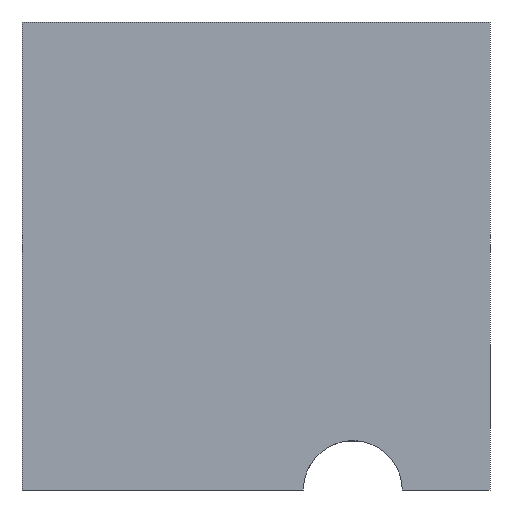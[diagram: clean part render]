
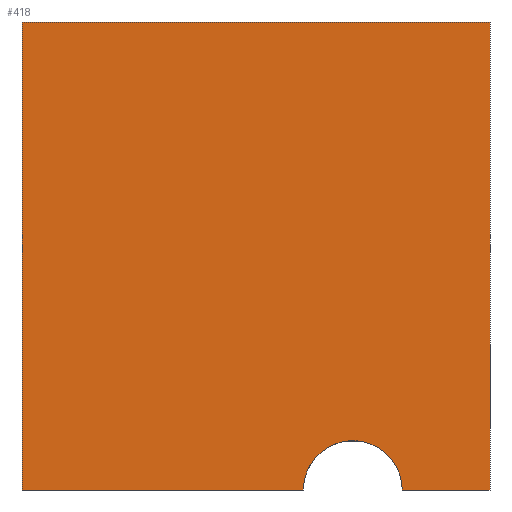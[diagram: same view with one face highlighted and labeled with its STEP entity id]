
A CAD part, left-side view. The second image highlights one B-rep face of the part: STEP entity #418.
In plain terms, the highlighted planar face has unit normal (-1, 0, 0).
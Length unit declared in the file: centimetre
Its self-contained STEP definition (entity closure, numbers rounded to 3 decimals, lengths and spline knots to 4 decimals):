
#6 = EDGE_CURVE ( 'NONE', #813, #938, #511, .T. ) ;
#7 = ORIENTED_EDGE ( 'NONE', *, *, #383, .T. ) ;
#51 = CARTESIAN_POINT ( 'NONE',  ( 0., 1000., 1000. ) ) ;
#53 = DIRECTION ( 'NONE',  ( 1., 0., 0. ) ) ;
#56 = VERTEX_POINT ( 'NONE', #737 ) ;
#89 = VERTEX_POINT ( 'NONE', #1078 ) ;
#132 = ORIENTED_EDGE ( 'NONE', *, *, #1138, .T. ) ;
#165 = FACE_OUTER_BOUND ( 'NONE', #588, .T. ) ;
#211 = CARTESIAN_POINT ( 'NONE',  ( 0., 0., 1000. ) ) ;
#236 = DIRECTION ( 'NONE',  ( 0., -1., 0. ) ) ;
#246 = DIRECTION ( 'NONE',  ( 0., -1., 0. ) ) ;
#306 = EDGE_CURVE ( 'NONE', #89, #1128, #912, .T. ) ;
#358 = LINE ( 'NONE', #1131, #1057 ) ;
#376 = CIRCLE ( 'NONE', #1221, 105.5991 ) ;
#383 = EDGE_CURVE ( 'NONE', #886, #813, #376, .T. ) ;
#389 = CARTESIAN_POINT ( 'NONE',  ( 0., 0., 1000. ) ) ;
#412 = VECTOR ( 'NONE', #236, 100. ) ;
#418 = ADVANCED_FACE ( 'NONE', ( #165 ), #529, .F. ) ;
#484 = LINE ( 'NONE', #1158, #611 ) ;
#503 = EDGE_CURVE ( 'NONE', #89, #56, #358, .T. ) ;
#511 = LINE ( 'NONE', #1094, #412 ) ;
#529 = PLANE ( 'NONE',  #668 ) ;
#536 = DIRECTION ( 'NONE',  ( 0., 0., -1. ) ) ;
#552 = DIRECTION ( 'NONE',  ( 1., 0., 0. ) ) ;
#588 = EDGE_LOOP ( 'NONE', ( #132, #7, #919, #830, #960, #873 ) ) ;
#592 = CARTESIAN_POINT ( 'NONE',  ( 0., 187.5955, 0. ) ) ;
#611 = VECTOR ( 'NONE', #763, 100. ) ;
#668 = AXIS2_PLACEMENT_3D ( 'NONE', #865, #552, #1058 ) ;
#687 = DIRECTION ( 'NONE',  ( 0., 0., -1. ) ) ;
#725 = CARTESIAN_POINT ( 'NONE',  ( 0., 293.1946, 0. ) ) ;
#737 = CARTESIAN_POINT ( 'NONE',  ( 0., 1000., 0. ) ) ;
#763 = DIRECTION ( 'NONE',  ( 0., -1., 0. ) ) ;
#795 = VECTOR ( 'NONE', #246, 100. ) ;
#802 = EDGE_CURVE ( 'NONE', #1128, #938, #1055, .T. ) ;
#813 = VERTEX_POINT ( 'NONE', #592 ) ;
#830 = ORIENTED_EDGE ( 'NONE', *, *, #802, .F. ) ;
#865 = CARTESIAN_POINT ( 'NONE',  ( 0., 1000., 1000. ) ) ;
#873 = ORIENTED_EDGE ( 'NONE', *, *, #503, .T. ) ;
#886 = VERTEX_POINT ( 'NONE', #1190 ) ;
#912 = LINE ( 'NONE', #51, #795 ) ;
#919 = ORIENTED_EDGE ( 'NONE', *, *, #6, .T. ) ;
#938 = VERTEX_POINT ( 'NONE', #1207 ) ;
#960 = ORIENTED_EDGE ( 'NONE', *, *, #306, .F. ) ;
#1055 = LINE ( 'NONE', #211, #1232 ) ;
#1057 = VECTOR ( 'NONE', #536, 100. ) ;
#1058 = DIRECTION ( 'NONE',  ( 0., 0., -1. ) ) ;
#1078 = CARTESIAN_POINT ( 'NONE',  ( 0., 1000., 1000. ) ) ;
#1094 = CARTESIAN_POINT ( 'NONE',  ( 0., 1000., 0. ) ) ;
#1109 = DIRECTION ( 'NONE',  ( 0., 0., -1. ) ) ;
#1128 = VERTEX_POINT ( 'NONE', #389 ) ;
#1131 = CARTESIAN_POINT ( 'NONE',  ( 0., 1000., 1000. ) ) ;
#1138 = EDGE_CURVE ( 'NONE', #56, #886, #484, .T. ) ;
#1158 = CARTESIAN_POINT ( 'NONE',  ( 0., 1000., 0. ) ) ;
#1190 = CARTESIAN_POINT ( 'NONE',  ( 0., 398.7937, 0. ) ) ;
#1207 = CARTESIAN_POINT ( 'NONE',  ( 0., 0., 0. ) ) ;
#1221 = AXIS2_PLACEMENT_3D ( 'NONE', #725, #53, #1109 ) ;
#1232 = VECTOR ( 'NONE', #687, 100. ) ;
